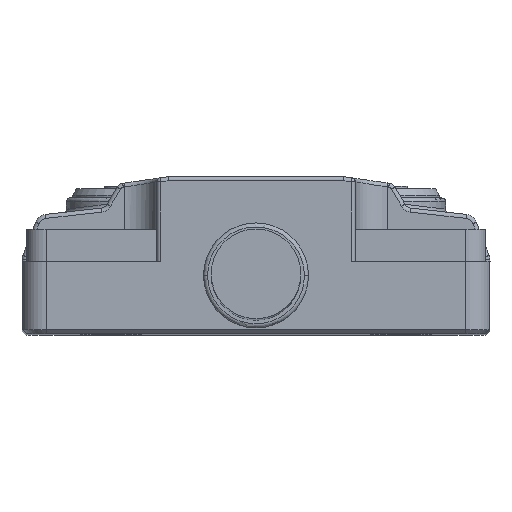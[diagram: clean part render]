
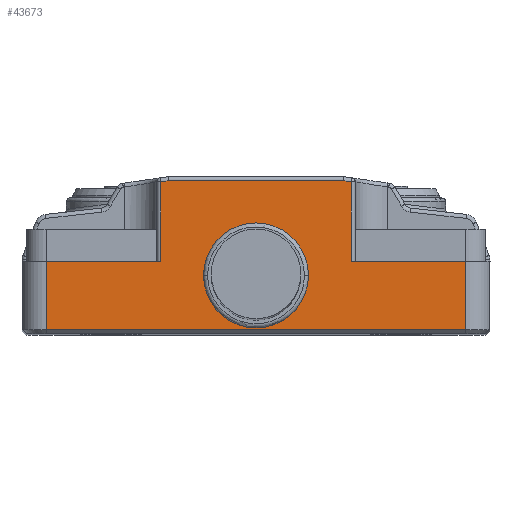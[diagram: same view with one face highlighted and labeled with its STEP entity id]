
A CAD part, top view. The second image highlights one B-rep face of the part: STEP entity #43673.
In plain terms, the highlighted planar face has unit normal (0, 0, 1).
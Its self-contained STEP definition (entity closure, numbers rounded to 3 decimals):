
#7294=DIRECTION('',(-0.99,0.139,0.));
#7295=VECTOR('',#7294,1.037);
#7296=CARTESIAN_POINT('',(11.8,18.856,153.));
#7297=LINE('',#7296,#7295);
#7298=DIRECTION('',(-1.,0.,0.));
#7299=VECTOR('',#7298,14.2);
#7300=CARTESIAN_POINT('',(26.,9.,153.));
#7301=LINE('',#7300,#7299);
#7302=DIRECTION('',(1.,0.,0.));
#7303=VECTOR('',#7302,52.);
#7304=CARTESIAN_POINT('',(-26.,0.5,153.));
#7305=LINE('',#7304,#7303);
#7306=DIRECTION('',(-1.,0.,0.));
#7307=VECTOR('',#7306,14.2);
#7308=CARTESIAN_POINT('',(-11.8,9.,153.));
#7309=LINE('',#7308,#7307);
#7310=DIRECTION('',(-0.99,-0.139,0.));
#7311=VECTOR('',#7310,1.037);
#7312=CARTESIAN_POINT('',(-10.773,19.,153.));
#7313=LINE('',#7312,#7311);
#7314=CARTESIAN_POINT('',(0.,7.25,153.));
#7315=DIRECTION('',(0.,0.,-1.));
#7316=DIRECTION('',(1.,0.,0.));
#7317=AXIS2_PLACEMENT_3D('',#7314,#7315,#7316);
#7319=CARTESIAN_POINT('',(0.,7.25,153.));
#7320=DIRECTION('',(0.,0.,-1.));
#7321=DIRECTION('',(-1.,0.,0.));
#7322=AXIS2_PLACEMENT_3D('',#7319,#7320,#7321);
#7324=CARTESIAN_POINT('',(10.773,19.,153.));
#7333=DIRECTION('',(1.,0.,0.));
#7334=VECTOR('',#7333,21.545);
#7335=CARTESIAN_POINT('',(-10.773,19.,153.));
#7336=LINE('',#7335,#7334);
#7693=DIRECTION('',(0.,1.,0.));
#7694=VECTOR('',#7693,9.856);
#7695=CARTESIAN_POINT('',(-11.8,9.,153.));
#7696=LINE('',#7695,#7694);
#7896=DIRECTION('',(0.,-1.,0.));
#7897=VECTOR('',#7896,9.856);
#7898=CARTESIAN_POINT('',(11.8,18.856,153.));
#7899=LINE('',#7898,#7897);
#7951=DIRECTION('',(0.,-1.,0.));
#7952=VECTOR('',#7951,8.5);
#7953=CARTESIAN_POINT('',(26.,9.,153.));
#7954=LINE('',#7953,#7952);
#8095=DIRECTION('',(0.,1.,0.));
#8096=VECTOR('',#8095,8.5);
#8097=CARTESIAN_POINT('',(-26.,0.5,153.));
#8098=LINE('',#8097,#8096);
#12979=CARTESIAN_POINT('',(-10.773,19.,
153.));
#24053=VERTEX_POINT('',#12979);
#24783=CARTESIAN_POINT('',(26.,9.,153.));
#24784=CARTESIAN_POINT('',(11.8,9.,153.));
#24785=VERTEX_POINT('',#24783);
#24786=VERTEX_POINT('',#24784);
#25448=CARTESIAN_POINT('',(-11.8,9.,153.));
#25450=VERTEX_POINT('',#25448);
#25776=CARTESIAN_POINT('',(-26.,0.5,153.));
#25778=VERTEX_POINT('',#25776);
#26078=VERTEX_POINT('',#7324);
#26462=CARTESIAN_POINT('',(11.8,18.856,153.));
#26464=VERTEX_POINT('',#26462);
#26676=CARTESIAN_POINT('',(-11.8,18.856,
153.));
#26677=VERTEX_POINT('',#26676);
#27620=CARTESIAN_POINT('',(-26.,9.,
153.));
#27621=VERTEX_POINT('',#27620);
#28137=CARTESIAN_POINT('',(26.,0.5,153.));
#28138=VERTEX_POINT('',#28137);
#28153=CARTESIAN_POINT('',(-6.5,7.25,153.));
#28154=CARTESIAN_POINT('',(6.5,7.25,153.));
#28155=VERTEX_POINT('',#28153);
#28156=VERTEX_POINT('',#28154);
#43641=CARTESIAN_POINT('',(-26.,0.5,153.));
#43642=DIRECTION('',(0.,0.,1.));
#43643=DIRECTION('',(1.,0.,0.));
#43644=AXIS2_PLACEMENT_3D('',#43641,#43642,#43643);
#43645=PLANE('',#43644);
#43647=ORIENTED_EDGE('',*,*,#43646,.T.);
#43649=ORIENTED_EDGE('',*,*,#43648,.F.);
#43651=ORIENTED_EDGE('',*,*,#43650,.T.);
#43653=ORIENTED_EDGE('',*,*,#43652,.F.);
#43655=ORIENTED_EDGE('',*,*,#43654,.T.);
#43656=ORIENTED_EDGE('',*,*,#43632,.F.);
#43658=ORIENTED_EDGE('',*,*,#43657,.T.);
#43660=ORIENTED_EDGE('',*,*,#43659,.F.);
#43662=ORIENTED_EDGE('',*,*,#43661,.T.);
#43664=ORIENTED_EDGE('',*,*,#43663,.F.);
#43665=EDGE_LOOP('',(#43647,#43649,#43651,#43653,#43655,#43656,#43658,#43660,
#43662,#43664));
#43666=FACE_OUTER_BOUND('',#43665,.F.);
#43668=ORIENTED_EDGE('',*,*,#43667,.F.);
#43670=ORIENTED_EDGE('',*,*,#43669,.F.);
#43671=EDGE_LOOP('',(#43668,#43670));
#43672=FACE_BOUND('',#43671,.F.);
#43673=ADVANCED_FACE('',(#43666,#43672),#43645,.T.);
#7318=CIRCLE('',#7317,6.5);
#7323=CIRCLE('',#7322,6.5);
#43632=EDGE_CURVE('',#25778,#28138,#7305,.T.);
#43646=EDGE_CURVE('',#24053,#26078,#7336,.T.);
#43648=EDGE_CURVE('',#26464,#26078,#7297,.T.);
#43650=EDGE_CURVE('',#26464,#24786,#7899,.T.);
#43652=EDGE_CURVE('',#24785,#24786,#7301,.T.);
#43654=EDGE_CURVE('',#24785,#28138,#7954,.T.);
#43657=EDGE_CURVE('',#25778,#27621,#8098,.T.);
#43659=EDGE_CURVE('',#25450,#27621,#7309,.T.);
#43661=EDGE_CURVE('',#25450,#26677,#7696,.T.);
#43663=EDGE_CURVE('',#24053,#26677,#7313,.T.);
#43667=EDGE_CURVE('',#28156,#28155,#7318,.T.);
#43669=EDGE_CURVE('',#28155,#28156,#7323,.T.);
